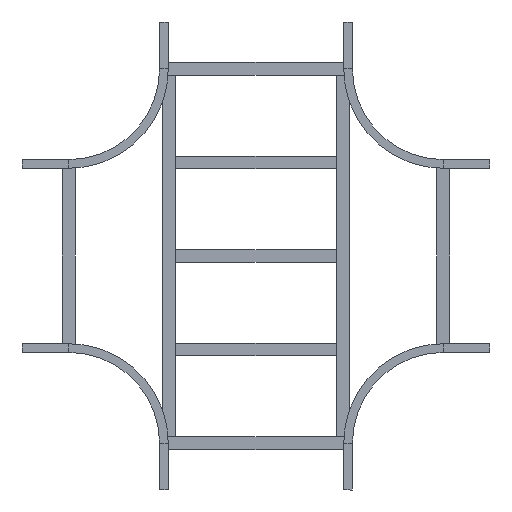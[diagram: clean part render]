
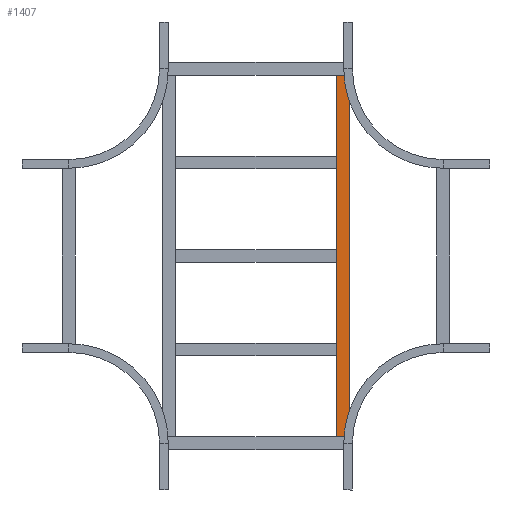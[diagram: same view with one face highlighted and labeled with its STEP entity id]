
A CAD part, front view. The second image highlights one B-rep face of the part: STEP entity #1407.
In plain terms, the highlighted planar face has unit normal (0, -1, 0).
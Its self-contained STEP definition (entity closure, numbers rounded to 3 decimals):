
#25 = EDGE_CURVE ( 'NONE', #1451, #364, #1861, .T. ) ;
#68 = VECTOR ( 'NONE', #2109, 1000. ) ;
#91 = FACE_OUTER_BOUND ( 'NONE', #414, .T. ) ;
#356 = VECTOR ( 'NONE', #1985, 1000. ) ;
#364 = VERTEX_POINT ( 'NONE', #1376 ) ;
#414 = EDGE_LOOP ( 'NONE', ( #1302, #1091, #1600, #667 ) ) ;
#473 = VECTOR ( 'NONE', #1925, 1000. ) ;
#546 = CARTESIAN_POINT ( 'NONE',  ( -579.75, 0., 20.25 ) ) ;
#602 = PLANE ( 'NONE',  #790 ) ;
#638 = CARTESIAN_POINT ( 'NONE',  ( 579.75, 0., -20.25 ) ) ;
#667 = ORIENTED_EDGE ( 'NONE', *, *, #1166, .T. ) ;
#781 = CARTESIAN_POINT ( 'NONE',  ( 579.75, 0., 20.25 ) ) ;
#790 = AXIS2_PLACEMENT_3D ( 'NONE', #781, #1310, #994 ) ;
#816 = DIRECTION ( 'NONE',  ( -1., 0., 0. ) ) ;
#892 = LINE ( 'NONE', #1756, #68 ) ;
#895 = EDGE_CURVE ( 'NONE', #2132, #1964, #918, .T. ) ;
#918 = LINE ( 'NONE', #1303, #356 ) ;
#984 = LINE ( 'NONE', #638, #2231 ) ;
#994 = DIRECTION ( 'NONE',  ( 0., 0., 1. ) ) ;
#1091 = ORIENTED_EDGE ( 'NONE', *, *, #1456, .F. ) ;
#1166 = EDGE_CURVE ( 'NONE', #1451, #2132, #892, .T. ) ;
#1230 = CARTESIAN_POINT ( 'NONE',  ( 579.75, 0., 20.25 ) ) ;
#1302 = ORIENTED_EDGE ( 'NONE', *, *, #895, .T. ) ;
#1303 = CARTESIAN_POINT ( 'NONE',  ( -579.75, 0., 20.25 ) ) ;
#1310 = DIRECTION ( 'NONE',  ( 0., 1., 0. ) ) ;
#1376 = CARTESIAN_POINT ( 'NONE',  ( 579.75, 0., -20.25 ) ) ;
#1407 = ADVANCED_FACE ( 'NONE', ( #91 ), #602, .F. ) ;
#1451 = VERTEX_POINT ( 'NONE', #1704 ) ;
#1456 = EDGE_CURVE ( 'NONE', #364, #1964, #984, .T. ) ;
#1481 = CARTESIAN_POINT ( 'NONE',  ( -579.75, 0., -20.25 ) ) ;
#1600 = ORIENTED_EDGE ( 'NONE', *, *, #25, .F. ) ;
#1704 = CARTESIAN_POINT ( 'NONE',  ( 579.75, 0., 20.25 ) ) ;
#1756 = CARTESIAN_POINT ( 'NONE',  ( 579.75, 0., 20.25 ) ) ;
#1861 = LINE ( 'NONE', #1230, #473 ) ;
#1925 = DIRECTION ( 'NONE',  ( 0., 0., -1. ) ) ;
#1964 = VERTEX_POINT ( 'NONE', #1481 ) ;
#1985 = DIRECTION ( 'NONE',  ( 0., 0., -1. ) ) ;
#2109 = DIRECTION ( 'NONE',  ( -1., 0., 0. ) ) ;
#2132 = VERTEX_POINT ( 'NONE', #546 ) ;
#2231 = VECTOR ( 'NONE', #816, 1000. ) ;
